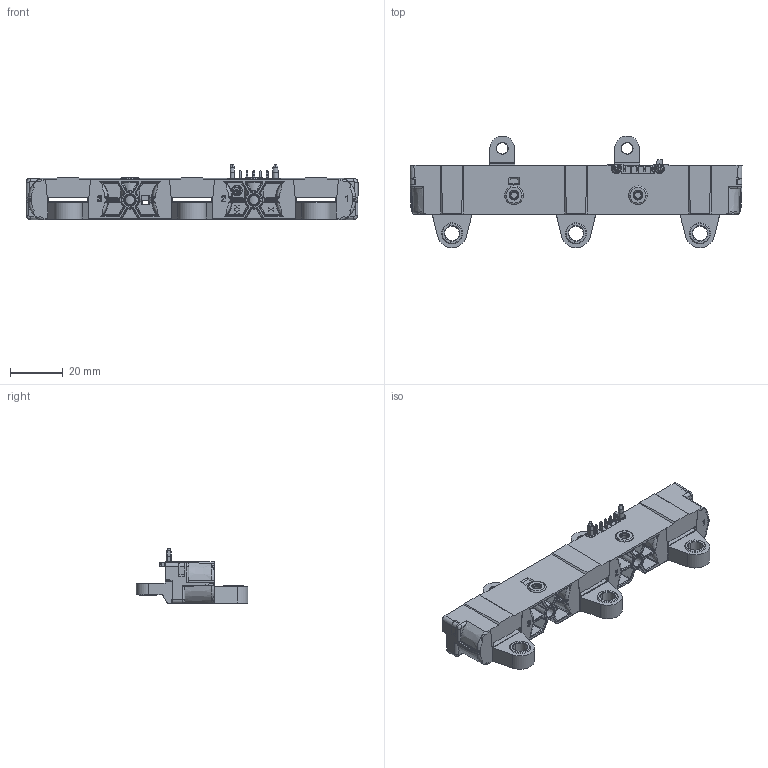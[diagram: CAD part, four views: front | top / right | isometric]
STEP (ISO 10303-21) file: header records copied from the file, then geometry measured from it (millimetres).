
FILE_DESCRIPTION(('Creo Elements/Direct Modeling STEP Export'),'2;1');
FILE_NAME('HAH3DR-S07-SP1-BBOX-2019-05-06.stp','2019-05-06T13:22:41',(''),(''),'Creo Elements/Direct Modeling STEP processor for AP214 (Solid Model)','Creo Elements/Direct Modeling 20.1 10-Mar-2018 (C) Parametric Technology GmbH','');
FILE_SCHEMA(('AUTOMOTIVE_DESIGN { 1 0 10303 214 1 1 1 1 }'));
Products named in the file (2): HAH3DR-S07-SP1-BBOX-DSL-201-05-06
Assembly tree (1 placements, depth 2):
  HAH3DR-S07-SP1-BBOX-DSL-201-05-06
    HAH3DR-S07-SP1-BBOX-DSL-201-05-06
Bounding box: 125.9 x 42.45 x 21.1 mm (x, y, z)
Volume: 29362.8 mm3; surface area: 16521 mm2
Topology: 2 solids, 2 shells, 2586 faces, 6715 edges, 4196 vertices
Faces by surface type: plane 1331, cylinder 574, bspline 470, cone 100, torus 93, sphere 18
Entity records: 143384 total; most frequent: CARTESIAN_POINT 67326, ORIENTED_EDGE 13478, DIRECTION 9729, EDGE_CURVE 6669, VERTEX_POINT 4194, VECTOR 4009, LINE 4009, AXIS2_PLACEMENT_3D 2860
